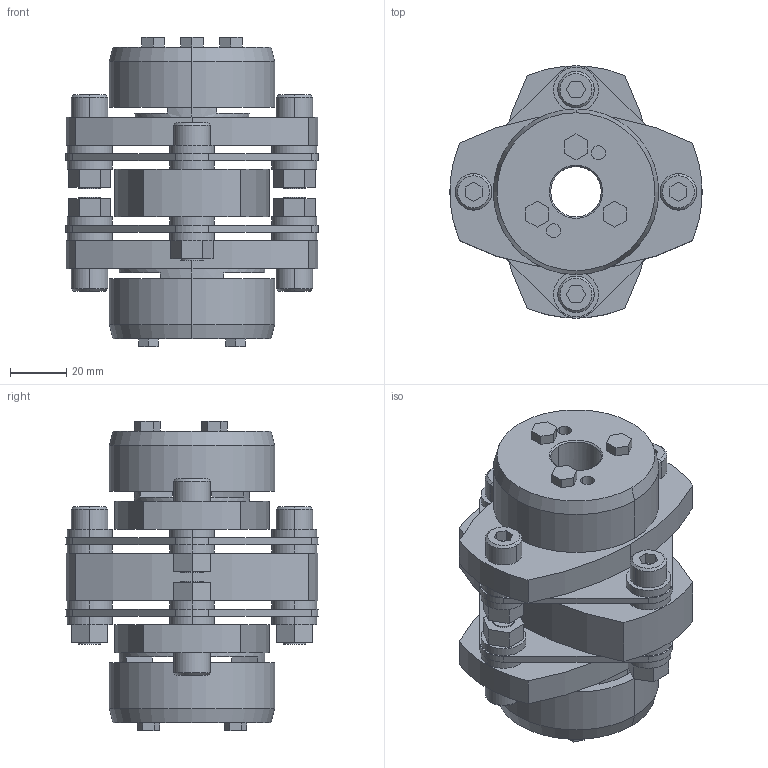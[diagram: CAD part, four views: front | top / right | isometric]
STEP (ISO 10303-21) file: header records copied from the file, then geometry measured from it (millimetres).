
FILE_DESCRIPTION((''),'2;1');
FILE_NAME('LCD-90T7-18×32.stp','2015-11-01T19:24:09',(''),(''),'AutoCAD STEP 2000i','AutoCAD 2000i',', , ');
FILE_SCHEMA(('CONFIG_CONTROL_DESIGN'));
Length unit declared in the file: millimetre
Products named in the file (8): LCD-90T7-19×32; 忣兜1; LC90T7-T032; LC90T7-T030; LC90T7-T025; LC90T7-T019-1; LC90T7-T019; LCD90-ITA
Assembly tree (7 placements, depth 2):
  LCD-90T7-19×32
    忣兜1
    LC90T7-T032
    LC90T7-T030
    LC90T7-T025
    LC90T7-T019-1
    LC90T7-T019
    LCD90-ITA
Bounding box: 90 x 89.94 x 110.3 mm (x, y, z)
Volume: 264047.4 mm3; surface area: 73047.4 mm2
Topology: 1 solids, 1 shells, 327 faces, 798 edges, 524 vertices
Faces by surface type: plane 183, cylinder 120, cone 24
Entity records: 9885 total; most frequent: DIRECTION 1748, CARTESIAN_POINT 1657, ORIENTED_EDGE 1596, EDGE_CURVE 798, AXIS2_PLACEMENT_3D 615, VERTEX_POINT 524, VECTOR 518, LINE 518
